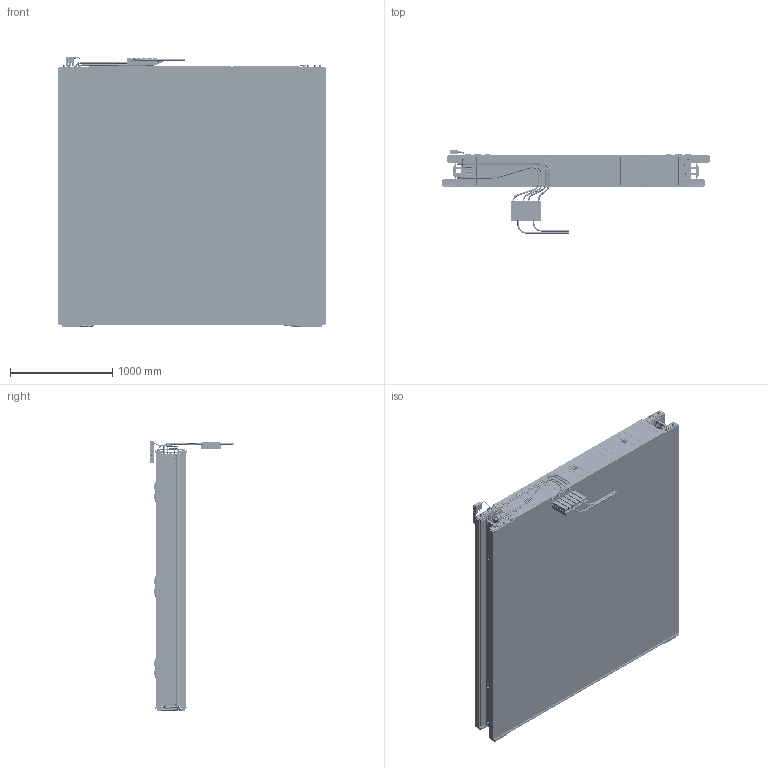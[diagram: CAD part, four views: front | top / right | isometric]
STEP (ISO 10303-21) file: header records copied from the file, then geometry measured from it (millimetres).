
FILE_DESCRIPTION(/* description */ (''),/* implementation_level */ '2;1');
FILE_NAME(/* name */ '040209_mb410_2_4_10_sx_phi_R_carters.stp',/* time_stamp */ '2022-07-08T12:55:26+02:00',/* author */ (''),/* organization */ (''),/* preprocessor_version */ 'ST-DEVELOPER v18.102',/* originating_system */ 'SIEMENS PLM Software NX 2000',/* authorisation */ '');
FILE_SCHEMA (('AUTOMOTIVE_DESIGN { 1 0 10303 214 3 1 1 1 }'));
Products named in the file (147): busbar_pin; ass_4_variables; piastra_0011_spess; piastra_0011; rivetto_4; guide_schematik_for_verify2; guide_schematik_for_verify; spina_5x26; elicoil; rivetto_svas_m10; power_supply_model; tappo1_4; connett_test_p; mb45_phi_lam_vars; mb3c_phi_lam_vars; mb3_phi_lam_vars; mb2c_th_lam_vars; mb2c_phi_lam_vars; mb2_th_lam_vars; mb2_phi_lam_vars; mb3c_th_lam_vars; mb45c_phi_lam_vars; mb3_th_lam_vars; mb48_phi_lam_vars; mb1_phi_lam_vars; mb1_th_lam_vars; mb49_phi_lam_vars; mb1c_phi_lam_vars; mb1c_th_lam_vars; cover_new2; axis; tappo1_8; colon_front_000308; block_sh12_000301; corpo_elbow; w4_10_hc_skin_178; w4_10_hc_core_178; cms_mb_05_010; fork; cms_mb_02_027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
Assembly tree (340 placements, depth 9):
  040209_mb410_2_4_10_sx_phi_R_carters
    mb410_2_4_10_sx_ass
      mb410_2_4_10_sx_ch
        mb2_phi_superlay  x2
          mb2_q1_ass_lamiere
            mb2_q1_b1
            mb2_q1_b1_up
            cms_mb_02_004  x4
              mb2_ass_4_variables
                ass_4_variables
          mb2_q1_ass_lateral
            as_angle  x2
              block_sh12_000301
              colon_front_000308
            cms_mb_02_014
          vite_m4
          mb2_q1_cover_hv_ass
            cms_mb_02_027
            cms_mb_02_022
              tappo1_8  x2
              axis  x35
            as_hv_conn_cover  x2
              cover_new2
          vars
            mb1c_th_vars
              mb1c_th_lam_vars
            mb1c_phi_vars
              mb1c_phi_lam_vars
            mb49_phi_vars
              mb49_phi_lam_vars
            mb1_th_vars
              mb1_th_lam_vars
            mb1_phi_vars
              mb1_phi_lam_vars
            mb48_phi_vars
              mb48_phi_lam_vars
            mb3_th_vars
              mb3_th_lam_vars
            mb45c_phi_vars
              mb45c_phi_lam_vars
            mb3c_th_vars
              mb3c_th_lam_vars
            mb2_phi_vars
              mb2_phi_lam_vars
            mb2_th_vars
              mb2_th_lam_vars
            mb2c_phi_vars
              mb2c_phi_lam_vars
            mb2c_th_vars
              mb2c_th_lam_vars
            mb3_phi_vars
              mb3_phi_lam_vars
            mb3c_phi_vars
              mb3c_phi_lam_vars
            mb45_phi_vars
              mb45_phi_lam_vars
          2550_ass
            2550_cms_mb_02_043
              axis  x39
              connett_test_p  x4
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Bounding box: 2612 x 815.65 x 2646.02 mm (x, y, z)
Volume: 1792181221.5 mm3; surface area: 184510730.5 mm2
Topology: 324 solids, 324 shells, 14498 faces, 38393 edges, 24495 vertices
Faces by surface type: plane 8664, cylinder 4780, cone 828, bspline 109, torus 85, sphere 32
Full cylindrical faces by diameter (mm): 1 x226, 1.675 x16, 2.594 x56, 3 x68, 3.2 x8, 3.25 x2, 3.3 x24, 3.432 x429, 3.5 x44, 3.778 x7, 4 x34, 4.351 x8, 4.8 x33, 5 x91, 5.188 x64, 5.5 x308, 6 x26, 6.4 x48, 6.5 x17, 7 x2, 7.188 x4, 7.5 x60, 8 x53, 8.6 x6, 8.782 x4, 8.8 x10, 8.933 x24, 8.985 x24, 9 x4, 9.061 x1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
Entity records: 298131 total; most frequent: CARTESIAN_POINT 75361, ORIENTED_EDGE 43524, DIRECTION 42989, EDGE_CURVE 21762, AXIS2_PLACEMENT_3D 14732, VERTEX_POINT 14345, LINE 13525, VECTOR 13525
